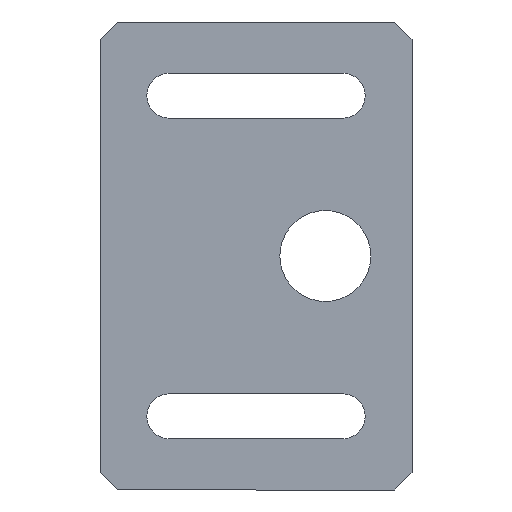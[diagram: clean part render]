
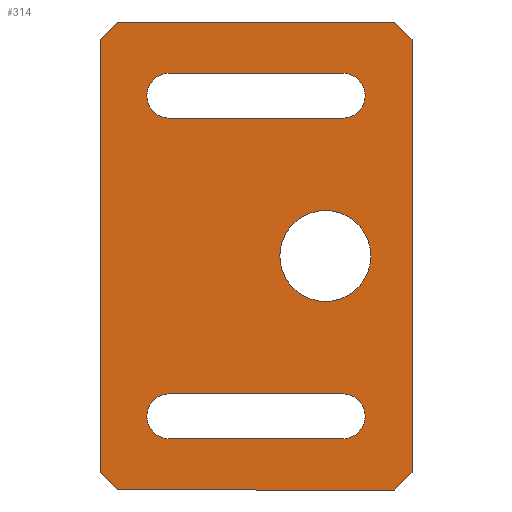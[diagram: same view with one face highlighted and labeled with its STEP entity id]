
A CAD part, left-side view. The second image highlights one B-rep face of the part: STEP entity #314.
In plain terms, the highlighted planar face has unit normal (-1, 0, 0).
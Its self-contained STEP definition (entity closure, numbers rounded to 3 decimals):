
#1 = ORIENTED_EDGE ( 'NONE', *, *, #19, .F. ) ;
#4 = DIRECTION ( 'NONE',  ( 0., 0., -1. ) ) ;
#14 = LINE ( 'NONE', #482, #171 ) ;
#16 = EDGE_CURVE ( 'NONE', #389, #685, #246, .T. ) ;
#17 = LINE ( 'NONE', #119, #151 ) ;
#19 = EDGE_CURVE ( 'NONE', #656, #467, #193, .T. ) ;
#21 = ORIENTED_EDGE ( 'NONE', *, *, #123, .F. ) ;
#24 = LINE ( 'NONE', #280, #384 ) ;
#27 = CARTESIAN_POINT ( 'NONE',  ( -5., -10., -18.5 ) ) ;
#33 = CARTESIAN_POINT ( 'NONE',  ( -5., 10., 15.9 ) ) ;
#40 = CARTESIAN_POINT ( 'NONE',  ( -5., -10., -15.9 ) ) ;
#45 = EDGE_CURVE ( 'NONE', #359, #194, #328, .T. ) ;
#61 = EDGE_CURVE ( 'NONE', #534, #608, #24, .T. ) ;
#66 = DIRECTION ( 'NONE',  ( 0., 1., 0. ) ) ;
#73 = CARTESIAN_POINT ( 'NONE',  ( -5., -10., 21.1 ) ) ;
#74 = ORIENTED_EDGE ( 'NONE', *, *, #160, .T. ) ;
#75 = DIRECTION ( 'NONE',  ( 0., -0.707, 0.707 ) ) ;
#76 = ORIENTED_EDGE ( 'NONE', *, *, #16, .T. ) ;
#77 = EDGE_LOOP ( 'NONE', ( #499, #76, #309, #86 ) ) ;
#81 = EDGE_LOOP ( 'NONE', ( #1, #370, #424, #74, #459, #195, #21, #649 ) ) ;
#85 = VERTEX_POINT ( 'NONE', #643 ) ;
#86 = ORIENTED_EDGE ( 'NONE', *, *, #422, .T. ) ;
#88 = CARTESIAN_POINT ( 'NONE',  ( -5., -8., 5.25 ) ) ;
#96 = VECTOR ( 'NONE', #684, 1000. ) ;
#102 = CARTESIAN_POINT ( 'NONE',  ( -5., 10., 18.5 ) ) ;
#106 = VECTOR ( 'NONE', #415, 1000. ) ;
#108 = DIRECTION ( 'NONE',  ( 0., 0., -1. ) ) ;
#119 = CARTESIAN_POINT ( 'NONE',  ( -5., 18., 27. ) ) ;
#120 = EDGE_CURVE ( 'NONE', #204, #389, #325, .T. ) ;
#123 = EDGE_CURVE ( 'NONE', #271, #134, #17, .T. ) ;
#124 = VECTOR ( 'NONE', #630, 1000. ) ;
#134 = VERTEX_POINT ( 'NONE', #306 ) ;
#145 = VECTOR ( 'NONE', #418, 1000. ) ;
#146 = LINE ( 'NONE', #580, #96 ) ;
#148 = CARTESIAN_POINT ( 'NONE',  ( -5., -10., 18.5 ) ) ;
#151 = VECTOR ( 'NONE', #612, 1000. ) ;
#154 = ORIENTED_EDGE ( 'NONE', *, *, #629, .T. ) ;
#157 = CIRCLE ( 'NONE', #232, 5.25 ) ;
#160 = EDGE_CURVE ( 'NONE', #359, #666, #591, .T. ) ;
#164 = EDGE_CURVE ( 'NONE', #383, #534, #605, .T. ) ;
#168 = ORIENTED_EDGE ( 'NONE', *, *, #164, .T. ) ;
#171 = VECTOR ( 'NONE', #357, 1000. ) ;
#176 = VECTOR ( 'NONE', #464, 1000. ) ;
#188 = AXIS2_PLACEMENT_3D ( 'NONE', #102, #268, #637 ) ;
#191 = CARTESIAN_POINT ( 'NONE',  ( -5., -8., 0. ) ) ;
#193 = LINE ( 'NONE', #465, #350 ) ;
#194 = VERTEX_POINT ( 'NONE', #641 ) ;
#195 = ORIENTED_EDGE ( 'NONE', *, *, #225, .T. ) ;
#196 = AXIS2_PLACEMENT_3D ( 'NONE', #239, #337, #108 ) ;
#204 = VERTEX_POINT ( 'NONE', #600 ) ;
#212 = CARTESIAN_POINT ( 'NONE',  ( -5., 10., 21.1 ) ) ;
#215 = CARTESIAN_POINT ( 'NONE',  ( -5., 0., 0. ) ) ;
#219 = VERTEX_POINT ( 'NONE', #673 ) ;
#220 = ORIENTED_EDGE ( 'NONE', *, *, #563, .T. ) ;
#221 = AXIS2_PLACEMENT_3D ( 'NONE', #27, #561, #341 ) ;
#225 = EDGE_CURVE ( 'NONE', #85, #134, #527, .T. ) ;
#227 = ORIENTED_EDGE ( 'NONE', *, *, #487, .T. ) ;
#232 = AXIS2_PLACEMENT_3D ( 'NONE', #191, #577, #249 ) ;
#238 = EDGE_CURVE ( 'NONE', #271, #467, #14, .T. ) ;
#239 = CARTESIAN_POINT ( 'NONE',  ( -5., 10., -18.5 ) ) ;
#240 = CARTESIAN_POINT ( 'NONE',  ( -5., -16., -27. ) ) ;
#246 = CIRCLE ( 'NONE', #188, 2.6 ) ;
#249 = DIRECTION ( 'NONE',  ( 0., 0., -1. ) ) ;
#250 = DIRECTION ( 'NONE',  ( 0., -0.707, -0.707 ) ) ;
#266 = DIRECTION ( 'NONE',  ( 0., 0., -1. ) ) ;
#268 = DIRECTION ( 'NONE',  ( 1., 0., 0. ) ) ;
#271 = VERTEX_POINT ( 'NONE', #523 ) ;
#278 = DIRECTION ( 'NONE',  ( 0., 0., 1. ) ) ;
#280 = CARTESIAN_POINT ( 'NONE',  ( -5., 10., -21.1 ) ) ;
#284 = VECTOR ( 'NONE', #397, 1000. ) ;
#287 = CARTESIAN_POINT ( 'NONE',  ( -5., 10., -15.9 ) ) ;
#290 = LINE ( 'NONE', #440, #145 ) ;
#301 = FACE_BOUND ( 'NONE', #77, .T. ) ;
#306 = CARTESIAN_POINT ( 'NONE',  ( -5., -16., 27. ) ) ;
#309 = ORIENTED_EDGE ( 'NONE', *, *, #411, .T. ) ;
#314 = ADVANCED_FACE ( 'NONE', ( #301, #494, #631, #343 ), #412, .F. ) ;
#315 = CARTESIAN_POINT ( 'NONE',  ( -5., -18., 25. ) ) ;
#325 = LINE ( 'NONE', #33, #284 ) ;
#328 = LINE ( 'NONE', #347, #124 ) ;
#332 = EDGE_LOOP ( 'NONE', ( #453, #227 ) ) ;
#337 = DIRECTION ( 'NONE',  ( 1., 0., 0. ) ) ;
#340 = AXIS2_PLACEMENT_3D ( 'NONE', #148, #553, #485 ) ;
#341 = DIRECTION ( 'NONE',  ( 0., 0., -1. ) ) ;
#343 = FACE_OUTER_BOUND ( 'NONE', #81, .T. ) ;
#347 = CARTESIAN_POINT ( 'NONE',  ( -5., 18., -27. ) ) ;
#349 = DIRECTION ( 'NONE',  ( 1., 0., 0. ) ) ;
#350 = VECTOR ( 'NONE', #278, 1000. ) ;
#356 = CIRCLE ( 'NONE', #340, 2.6 ) ;
#357 = DIRECTION ( 'NONE',  ( 0., 0.707, -0.707 ) ) ;
#358 = CARTESIAN_POINT ( 'NONE',  ( -5., -8., 0. ) ) ;
#359 = VERTEX_POINT ( 'NONE', #571 ) ;
#370 = ORIENTED_EDGE ( 'NONE', *, *, #526, .T. ) ;
#376 = VECTOR ( 'NONE', #75, 1000. ) ;
#383 = VERTEX_POINT ( 'NONE', #40 ) ;
#384 = VECTOR ( 'NONE', #66, 1000. ) ;
#389 = VERTEX_POINT ( 'NONE', #529 ) ;
#397 = DIRECTION ( 'NONE',  ( 0., 1., 0. ) ) ;
#400 = CARTESIAN_POINT ( 'NONE',  ( -5., 18., -25. ) ) ;
#405 = AXIS2_PLACEMENT_3D ( 'NONE', #215, #349, #266 ) ;
#411 = EDGE_CURVE ( 'NONE', #685, #638, #146, .T. ) ;
#412 = PLANE ( 'NONE',  #405 ) ;
#415 = DIRECTION ( 'NONE',  ( 0., -1., 0. ) ) ;
#418 = DIRECTION ( 'NONE',  ( 0., 0., -1. ) ) ;
#422 = EDGE_CURVE ( 'NONE', #638, #204, #356, .T. ) ;
#424 = ORIENTED_EDGE ( 'NONE', *, *, #45, .F. ) ;
#428 = AXIS2_PLACEMENT_3D ( 'NONE', #358, #514, #4 ) ;
#438 = EDGE_CURVE ( 'NONE', #85, #666, #290, .T. ) ;
#440 = CARTESIAN_POINT ( 'NONE',  ( -5., -18., 27. ) ) ;
#445 = CARTESIAN_POINT ( 'NONE',  ( -5., -18., -25. ) ) ;
#453 = ORIENTED_EDGE ( 'NONE', *, *, #676, .T. ) ;
#459 = ORIENTED_EDGE ( 'NONE', *, *, #438, .F. ) ;
#464 = DIRECTION ( 'NONE',  ( 0., 0.707, 0.707 ) ) ;
#465 = CARTESIAN_POINT ( 'NONE',  ( -5., 18., 27. ) ) ;
#467 = VERTEX_POINT ( 'NONE', #546 ) ;
#482 = CARTESIAN_POINT ( 'NONE',  ( -5., 16., 27. ) ) ;
#485 = DIRECTION ( 'NONE',  ( 0., 0., -1. ) ) ;
#487 = EDGE_CURVE ( 'NONE', #525, #219, #157, .T. ) ;
#491 = VECTOR ( 'NONE', #250, 1000. ) ;
#494 = FACE_BOUND ( 'NONE', #670, .T. ) ;
#496 = ORIENTED_EDGE ( 'NONE', *, *, #61, .T. ) ;
#499 = ORIENTED_EDGE ( 'NONE', *, *, #120, .T. ) ;
#507 = CARTESIAN_POINT ( 'NONE',  ( -5., 18., -25. ) ) ;
#514 = DIRECTION ( 'NONE',  ( 1., 0., 0. ) ) ;
#523 = CARTESIAN_POINT ( 'NONE',  ( -5., 16., 27. ) ) ;
#525 = VERTEX_POINT ( 'NONE', #88 ) ;
#526 = EDGE_CURVE ( 'NONE', #656, #194, #677, .T. ) ;
#527 = LINE ( 'NONE', #315, #176 ) ;
#529 = CARTESIAN_POINT ( 'NONE',  ( -5., 10., 15.9 ) ) ;
#534 = VERTEX_POINT ( 'NONE', #595 ) ;
#538 = CARTESIAN_POINT ( 'NONE',  ( -5., 10., -15.9 ) ) ;
#546 = CARTESIAN_POINT ( 'NONE',  ( -5., 18., 25. ) ) ;
#553 = DIRECTION ( 'NONE',  ( 1., 0., 0. ) ) ;
#561 = DIRECTION ( 'NONE',  ( 1., 0., 0. ) ) ;
#563 = EDGE_CURVE ( 'NONE', #608, #620, #648, .T. ) ;
#571 = CARTESIAN_POINT ( 'NONE',  ( -5., -16., -27. ) ) ;
#574 = CARTESIAN_POINT ( 'NONE',  ( -5., 10., -21.1 ) ) ;
#577 = DIRECTION ( 'NONE',  ( 1., 0., 0. ) ) ;
#580 = CARTESIAN_POINT ( 'NONE',  ( -5., 10., 21.1 ) ) ;
#591 = LINE ( 'NONE', #240, #376 ) ;
#595 = CARTESIAN_POINT ( 'NONE',  ( -5., -10., -21.1 ) ) ;
#600 = CARTESIAN_POINT ( 'NONE',  ( -5., -10., 15.9 ) ) ;
#602 = CIRCLE ( 'NONE', #428, 5.25 ) ;
#605 = CIRCLE ( 'NONE', #221, 2.6 ) ;
#608 = VERTEX_POINT ( 'NONE', #574 ) ;
#612 = DIRECTION ( 'NONE',  ( 0., -1., 0. ) ) ;
#620 = VERTEX_POINT ( 'NONE', #538 ) ;
#621 = LINE ( 'NONE', #287, #106 ) ;
#629 = EDGE_CURVE ( 'NONE', #620, #383, #621, .T. ) ;
#630 = DIRECTION ( 'NONE',  ( 0., 1., 0. ) ) ;
#631 = FACE_BOUND ( 'NONE', #332, .T. ) ;
#637 = DIRECTION ( 'NONE',  ( 0., 0., -1. ) ) ;
#638 = VERTEX_POINT ( 'NONE', #73 ) ;
#641 = CARTESIAN_POINT ( 'NONE',  ( -5., 16., -27. ) ) ;
#643 = CARTESIAN_POINT ( 'NONE',  ( -5., -18., 25. ) ) ;
#648 = CIRCLE ( 'NONE', #196, 2.6 ) ;
#649 = ORIENTED_EDGE ( 'NONE', *, *, #238, .T. ) ;
#656 = VERTEX_POINT ( 'NONE', #400 ) ;
#666 = VERTEX_POINT ( 'NONE', #445 ) ;
#670 = EDGE_LOOP ( 'NONE', ( #496, #220, #154, #168 ) ) ;
#673 = CARTESIAN_POINT ( 'NONE',  ( -5., -8., -5.25 ) ) ;
#676 = EDGE_CURVE ( 'NONE', #219, #525, #602, .T. ) ;
#677 = LINE ( 'NONE', #507, #491 ) ;
#684 = DIRECTION ( 'NONE',  ( 0., -1., 0. ) ) ;
#685 = VERTEX_POINT ( 'NONE', #212 ) ;
